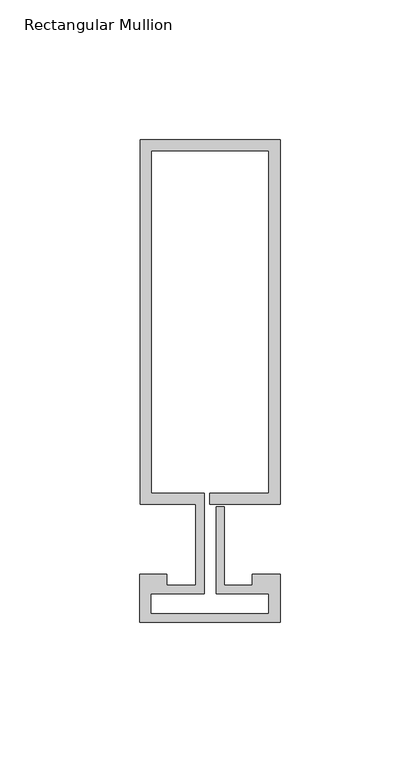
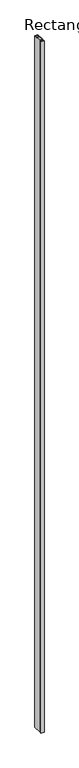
"""IFC4 building model written with IfcOpenShell, lengths in millimetres: member geometry, Rectangular Mullion : Reynaers_CW-50_Mullion-Transom_Horizontal_130.4mm_Facecap-02B."""

from ifc_helpers import new_model, si_unit, frame, origin, place, context, project, spatial, polyline, outline, extrude, source, transform, mapped, element, save


def rectangular_mullion_d535f9ed(model_context):
    return source(origin(), model_context, "Body", "SweptSolid", [
        extrude(outline(polyline([(-24.8004059, 142.9), (25.1995941, 142.9), (25.1995941, 12.5), (0.0, 12.5), (0.0, 16.5), (21.1995941, 16.5), (21.1995941, 138.9), (-20.8004059, 138.9), (-20.8004059, 16.5), (-1.9004059, 16.5), (-1.9004059, -19.5), (-20.994845, -19.5), (-20.994845, -26.7191338), (21.1995941, -26.7191338), (21.1995941, -19.5), (2.2995941, -19.5), (2.2995941, 11.5), (5.2995941, 11.5), (5.2995941, -16.5), (15.2996495, -16.5), (15.2996495, -12.5), (25.1995941, -12.5), (25.1995941, -29.8), (-24.994845, -29.8), (-24.994845, -12.5), (-15.2996495, -12.5), (-15.2996495, -16.5), (-4.9004059, -16.5), (-4.9004059, 12.5), (-24.8004059, 12.5), (-24.8004059, 142.9)])), frame((0.0, 0.0, -12000.0), z_axis=(0.0, 0.0, 1.0), x_axis=(1.0, 0.0, 0.0)), (0.0, 0.0, 1.0), 12000.0),
    ])


if __name__ == "__main__":
    model = new_model("IFC4")
    model_context = context("Model", 3, world=origin())
    ifc_project = project(units=[si_unit("LENGTHUNIT", "METRE", prefix="MILLI")], contexts=[model_context])
    site = spatial("IfcSite", under=ifc_project)
    building = spatial("IfcBuilding", under=site)
    placement = place(None, origin())
    rectangular_mullion_shape = rectangular_mullion_d535f9ed(model_context)
    element("IfcMember", 1, ObjectType="Rectangular Mullion : Reynaers_CW-50_Mullion-Transom_Horizontal_130.4mm_Facecap-02B", at=placement, inside=building, context=model_context, shape_type="MappedRepresentation", body=[
        mapped(rectangular_mullion_shape, transform((0.0, 0.0, 0.0), x_axis=(1.0, 0.0, 0.0), y_axis=(0.0, 1.0, 0.0), z_axis=(0.0, 0.0, 1.0))),
    ])
    save(model, "model.ifc")
